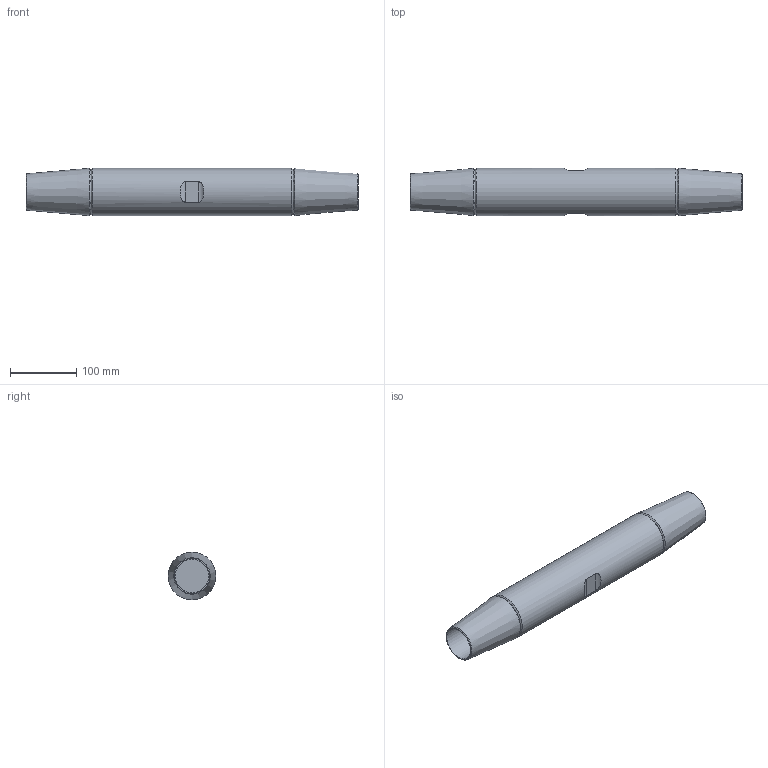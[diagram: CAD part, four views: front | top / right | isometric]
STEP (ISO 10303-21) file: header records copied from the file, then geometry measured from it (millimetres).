
FILE_DESCRIPTION(/* description */ (''),/* implementation_level */ '2;1');
FILE_NAME(/* name */ 'G:\Engineering\700 CAD\Internet-PX-1-step-igs-dxf\520-MUF-Arbeitsdateien\520-048-MUF.stp',/* time_stamp */ '2020-06-30T13:17:36+02:00',/* author */ ('schwarz'),/* organization */ (''),/* preprocessor_version */ 'ST-DEVELOPER v16.1',/* originating_system */ 'Autodesk Inventor 2016',/* authorisation */ '');
FILE_SCHEMA (('AUTOMOTIVE_DESIGN { 1 0 10303 214 3 1 1 }'));
Length unit declared in the file: centimetre
Products named in the file (1): Zusammenbau Muffe 520 048 Kunde
Bounding box: 502 x 72 x 72 mm (x, y, z)
Volume: 1566248.7 mm3; surface area: 137078.5 mm2
Topology: 1 solids, 1 shells, 21 faces, 43 edges, 27 vertices
Faces by surface type: cone 8, cylinder 7, plane 6
Full cylindrical faces by diameter (mm): 50.5 x2, 72 x1
Entity records: 629 total; most frequent: CARTESIAN_POINT 182, DIRECTION 80, ORIENTED_EDGE 60, EDGE_LOOP 36, AXIS2_PLACEMENT_3D 36, EDGE_CURVE 30, VERTEX_POINT 26, STYLED_ITEM 22
